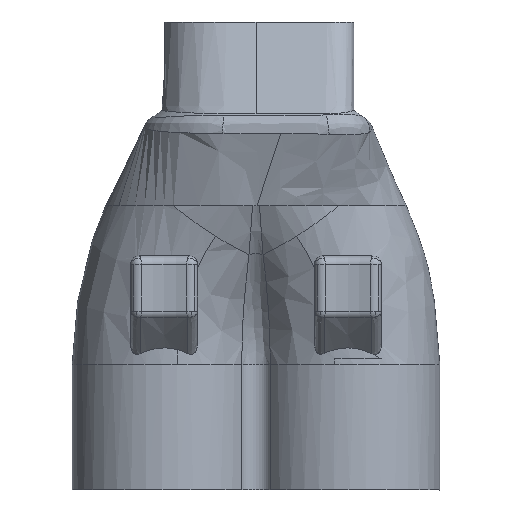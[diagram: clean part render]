
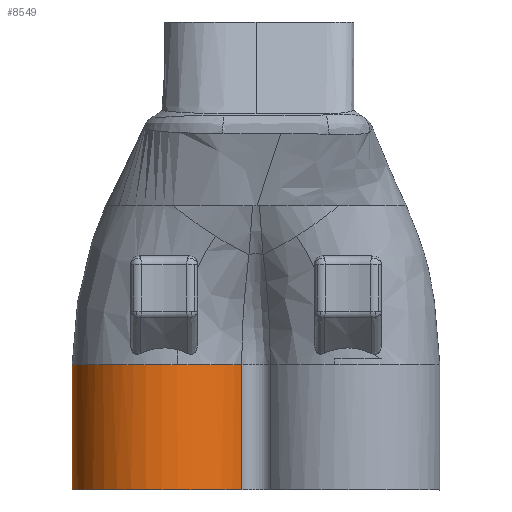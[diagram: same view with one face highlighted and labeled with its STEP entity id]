
A CAD part, left-side view. The second image highlights one B-rep face of the part: STEP entity #8549.
In plain terms, the highlighted cylindrical face has radius 11 mm (diameter 22 mm), a partial arc.
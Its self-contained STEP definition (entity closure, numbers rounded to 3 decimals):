
#6 = ORIENTED_EDGE ( 'NONE', *, *, #4523, .T. ) ;
#9 = CYLINDRICAL_SURFACE ( 'NONE', #3867, 11. ) ;
#334 = VECTOR ( 'NONE', #4953, 1000. ) ;
#431 = CARTESIAN_POINT ( 'NONE',  ( -3.514, 1.692, -31. ) ) ;
#991 = ORIENTED_EDGE ( 'NONE', *, *, #5090, .T. ) ;
#1509 = VERTEX_POINT ( 'NONE', #10162 ) ;
#1681 = CARTESIAN_POINT ( 'NONE',  ( -0.795, 21.658, -31. ) ) ;
#1702 = CARTESIAN_POINT ( 'NONE',  ( -3.514, 1.692, -31. ) ) ;
#1748 = CARTESIAN_POINT ( 'NONE',  ( -6.998, 17.011, -31. ) ) ;
#1899 = LINE ( 'NONE', #431, #334 ) ;
#2125 = EDGE_LOOP ( 'NONE', ( #991, #6, #3009, #11007, #8680 ) ) ;
#2274 = VECTOR ( 'NONE', #5384, 1000. ) ;
#2945 = CARTESIAN_POINT ( 'NONE',  ( -8.538, 9.423, -31. ) ) ;
#3009 = ORIENTED_EDGE ( 'NONE', *, *, #12294, .F. ) ;
#3751 = VERTEX_POINT ( 'NONE', #6652 ) ;
#3867 = AXIS2_PLACEMENT_3D ( 'NONE', #9048, #7943, #6820 ) ;
#4132 = LINE ( 'NONE', #10932, #2274 ) ;
#4188 = CARTESIAN_POINT ( 'NONE',  ( -8.65, 12.583, -31. ) ) ;
#4523 = EDGE_CURVE ( 'NONE', #4785, #12265, #4132, .T. ) ;
#4785 = VERTEX_POINT ( 'NONE', #14572 ) ;
#4953 = DIRECTION ( 'NONE',  ( 0., 0., -1. ) ) ;
#5090 = EDGE_CURVE ( 'NONE', #8632, #4785, #13722, .T. ) ;
#5384 = DIRECTION ( 'NONE',  ( 0., 0., -1. ) ) ;
#5925 = CARTESIAN_POINT ( 'NONE',  ( 2.348, 11., -46. ) ) ;
#6139 = CARTESIAN_POINT ( 'NONE',  ( -8.538, 9.423, -31. ) ) ;
#6261 = CARTESIAN_POINT ( 'NONE',  ( 0.776, 22., -31. ) ) ;
#6652 = CARTESIAN_POINT ( 'NONE',  ( -3.514, 1.692, -31. ) ) ;
#6820 = DIRECTION ( 'NONE',  ( 0., 1., 0. ) ) ;
#7943 = DIRECTION ( 'NONE',  ( 0., 0., -1. ) ) ;
#8231 = DIRECTION ( 'NONE',  ( -0.99, -0.143, 0. ) ) ;
#8549 = ADVANCED_FACE ( 'NONE', ( #10155 ), #9, .T. ) ;
#8566 = CARTESIAN_POINT ( 'NONE',  ( -7.767, 15.599, -31. ) ) ;
#8588 = CARTESIAN_POINT ( 'NONE',  ( -7.739, 6.336, -31. ) ) ;
#8632 = VERTEX_POINT ( 'NONE', #13791 ) ;
#8680 = ORIENTED_EDGE ( 'NONE', *, *, #13663, .T. ) ;
#9048 = CARTESIAN_POINT ( 'NONE',  ( 2.348, 11., -31. ) ) ;
#9197 = DIRECTION ( 'NONE',  ( 0., 0., -1. ) ) ;
#9634 = CARTESIAN_POINT ( 'NONE',  ( -6.011, 3.676, -31. ) ) ;
#10155 = FACE_OUTER_BOUND ( 'NONE', #2125, .T. ) ;
#10162 = CARTESIAN_POINT ( 'NONE',  ( -3.514, 1.692, -46. ) ) ;
#10381 = B_SPLINE_CURVE_WITH_KNOTS ( 'NONE', 3,
 ( #1702, #14150, #9634, #8588, #11846, #6139 ),
 .UNSPECIFIED., .F., .F.,
 ( 4, 2, 4 ),
 ( 0., 0.5, 1. ),
 .UNSPECIFIED. ) ;
#10595 = CARTESIAN_POINT ( 'NONE',  ( 2.348, 22., -46. ) ) ;
#10748 = AXIS2_PLACEMENT_3D ( 'NONE', #5925, #9197, #8231 ) ;
#10778 = CARTESIAN_POINT ( 'NONE',  ( 2.348, 22.001, -31. ) ) ;
#10932 = CARTESIAN_POINT ( 'NONE',  ( 2.348, 22., -31. ) ) ;
#11007 = ORIENTED_EDGE ( 'NONE', *, *, #11578, .F. ) ;
#11578 = EDGE_CURVE ( 'NONE', #3751, #1509, #1899, .T. ) ;
#11824 = CARTESIAN_POINT ( 'NONE',  ( -4.94, 19.388, -31. ) ) ;
#11846 = CARTESIAN_POINT ( 'NONE',  ( -8.311, 7.854, -31. ) ) ;
#11895 = CARTESIAN_POINT ( 'NONE',  ( -8.764, 10.979, -31. ) ) ;
#12265 = VERTEX_POINT ( 'NONE', #10595 ) ;
#12294 = EDGE_CURVE ( 'NONE', #1509, #12265, #14065, .T. ) ;
#13663 = EDGE_CURVE ( 'NONE', #3751, #8632, #10381, .T. ) ;
#13722 = B_SPLINE_CURVE_WITH_KNOTS ( 'NONE', 3,
 ( #2945, #11895, #4188, #8566, #1748, #11824, #14054, #1681, #6261, #10778 ),
 .UNSPECIFIED., .F., .F.,
 ( 4, 2, 2, 2, 4 ),
 ( 0., 0.1, 0.2, 0.299, 0.399 ),
 .UNSPECIFIED. ) ;
#13791 = CARTESIAN_POINT ( 'NONE',  ( -8.538, 9.423, -31. ) ) ;
#14054 = CARTESIAN_POINT ( 'NONE',  ( -3.654, 20.351, -31. ) ) ;
#14065 = CIRCLE ( 'NONE', #10748, 11. ) ;
#14150 = CARTESIAN_POINT ( 'NONE',  ( -4.856, 2.537, -31. ) ) ;
#14572 = CARTESIAN_POINT ( 'NONE',  ( 2.348, 22.001, -31. ) ) ;
